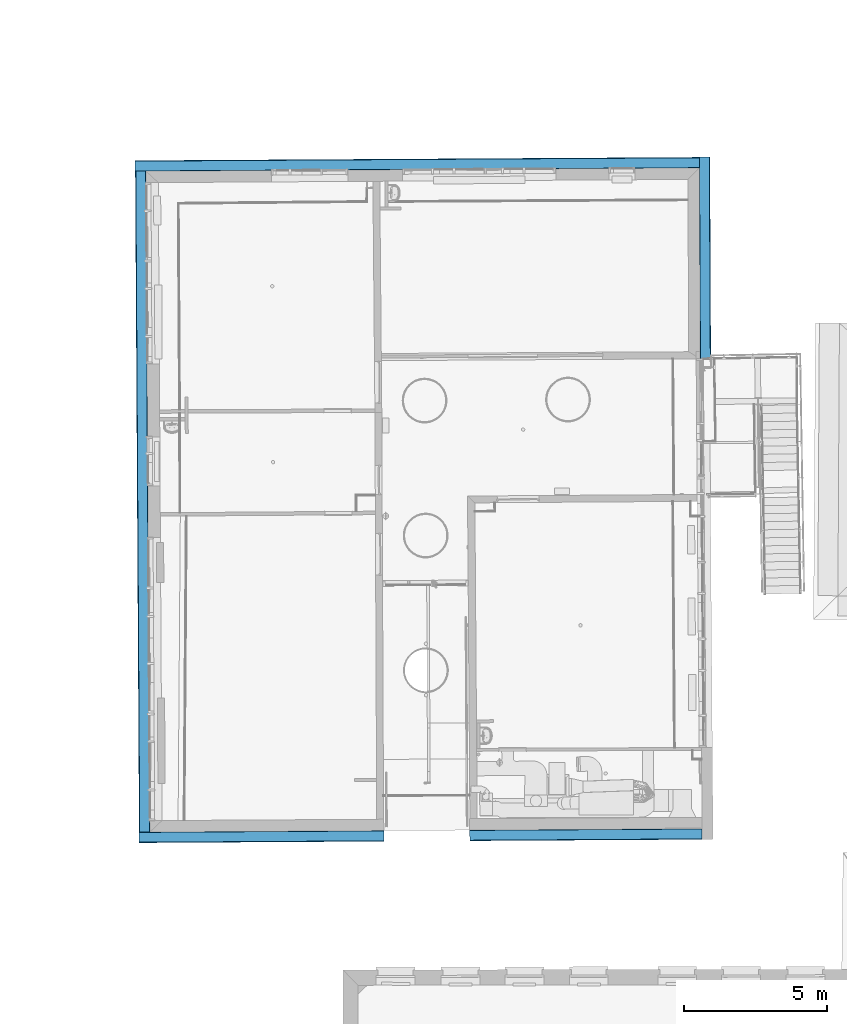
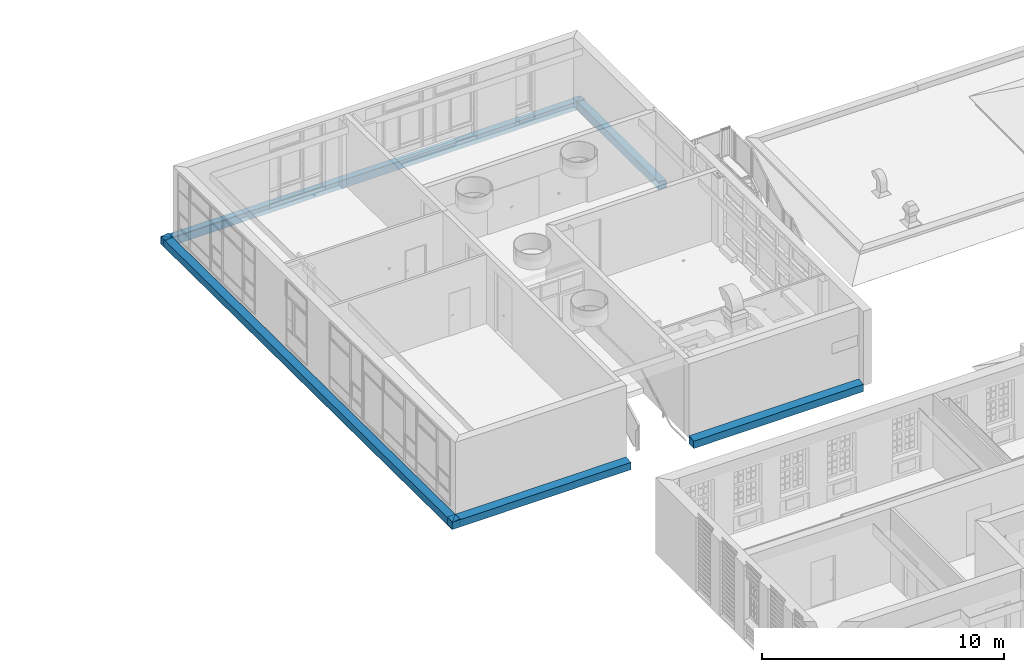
# One storey, part 52 of 158: 10 building element parts, 5 elements without a shape of their own.
"""IFC2X3 building model written with IfcOpenShell, lengths in metres."""

from ifc_helpers import new_model, entity, si_unit, converted_unit, derived_unit, money_unit, direction, frame, origin_with_axes, place, context, subcontext, project, spatial, polyline, outline, extrude, material, type_object, element, aggregate, save


model = new_model("IFC2X3")

# Units and contexts
model_context = context("Model", 3, precision=1e-05, world=origin_with_axes(), true_north=direction((0.0, 1.0)))
body_context = subcontext(model_context, "Body", "Model", "MODEL_VIEW")
ifc_project = project(units=[si_unit("LENGTHUNIT", "METRE"), si_unit("AREAUNIT", "SQUARE_METRE"), si_unit("VOLUMEUNIT", "CUBIC_METRE"), converted_unit("PLANEANGLEUNIT", "DEGREE", entity("IfcPlaneAngleMeasure", 0.0174532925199), si_unit("PLANEANGLEUNIT", "RADIAN"), dimensions=[0, 0, 0, 0, 0, 0, 0]), money_unit("EUR"), converted_unit("TIMEUNIT", "Year", entity("IfcTimeMeasure", 31556926.0), si_unit("TIMEUNIT", "SECOND"), dimensions=[0, 0, 1, 0, 0, 0, 0]), si_unit("MASSUNIT", "GRAM", prefix="KILO"), si_unit("THERMODYNAMICTEMPERATUREUNIT", "DEGREE_CELSIUS"), si_unit("LUMINOUSINTENSITYUNIT", "LUMEN"), si_unit("ENERGYUNIT", "JOULE", prefix="MEGA"), derived_unit("THERMALCONDUCTANCEUNIT", [(si_unit("POWERUNIT", "WATT"), 1), (si_unit("LENGTHUNIT", "METRE"), -1), (si_unit("THERMODYNAMICTEMPERATUREUNIT", "KELVIN"), -1)]), derived_unit("SPECIFICHEATCAPACITYUNIT", [(si_unit("ENERGYUNIT", "JOULE"), 1), (si_unit("MASSUNIT", "GRAM", prefix="KILO"), -1), (si_unit("THERMODYNAMICTEMPERATUREUNIT", "KELVIN"), -1)]), derived_unit("MASSDENSITYUNIT", [(si_unit("MASSUNIT", "GRAM", prefix="KILO"), 1), (si_unit("VOLUMEUNIT", "CUBIC_METRE"), -1)])], contexts=[model_context])

# Site, building, storey
site_placement = place(None, origin_with_axes())
site = spatial("IfcSite", under=ifc_project, at=site_placement, Name="Gelände", CompositionType="ELEMENT")
building_placement = place(site_placement, origin_with_axes())
building = spatial("IfcBuilding", under=site, at=building_placement, Name="Gebäude", CompositionType="ELEMENT")
storey_placement = place(building_placement, origin_with_axes())
storey = spatial("IfcBuildingStorey", under=building, at=storey_placement, Name="ERDGESCHOSS", CompositionType="ELEMENT", Elevation=0.0)

# Beam, building element parts
beam_type = type_object("IfcBeamType", Name="sims 374 x 425", PredefinedType="LINTEL")
beam_1_placement = place(storey_placement, frame((-15.2624628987, 54.3998649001, 1.13520466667), z_axis=(0.0, 0.0, 1.0), x_axis=(-0.00590756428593, 0.99998255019, 0.0)))
beam_1 = element("IfcBeam", 1, at=beam_1_placement, inside=storey, type_object=beam_type, Name="Unterzug-083", ObjectType="LINTEL")
ifc_material_1 = material(Name="33_Dach, Stehfalz")
building_element_part_1_placement = place(beam_1_placement, origin_with_axes())
building_element_part_1 = element("IfcBuildingElementPart", 2, at=building_element_part_1_placement, material=ifc_material_1, Name="33_Dach, Stehfalz", context=body_context, shape_type="SweptSolid", body=[
    extrude(outline(polyline([(-0.365694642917, 0.0339233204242), (-0.0211704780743, -0.0168783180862), (-0.0221454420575, -0.363606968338), (0.0, -0.369517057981), (0.0, 0.0), (-0.374024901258, 0.0551516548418), (-0.365694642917, 0.0339233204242)])), frame((0.0, 20.0640206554, 0.0), z_axis=(0.0, -1.0, 0.0), x_axis=(1.0, 0.0, 0.0)), (0.0, 0.0, 1.0), 20.0640206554),
])
ifc_material_2 = material(Name="05_ALLGEMEIN - TRAGENDE BAUTEILE")
building_element_part_2_placement = place(beam_1_placement, origin_with_axes())
building_element_part_2 = element("IfcBuildingElementPart", 3, at=building_element_part_2_placement, material=ifc_material_2, Name="05_ALLGEMEIN - TRAGENDE BAUTEILE", context=body_context, shape_type="SweptSolid", body=[
    extrude(outline(polyline([(-0.0211704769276, -0.0168783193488), (-0.365694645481, 0.0339233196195), (-0.365694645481, -0.363544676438), (-0.0221454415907, -0.36360696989), (-0.0211704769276, -0.0168783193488)])), frame((0.0, 20.0640206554, 0.0), z_axis=(0.0, -1.0, 0.0), x_axis=(1.0, 0.0, 0.0)), (0.0, 0.0, 1.0), 20.0640206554),
])
aggregate(beam_1, [building_element_part_1, building_element_part_2])

beam_2_placement = place(storey_placement, frame((-35.1864548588, 30.4649902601, 1.13520466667), z_axis=(0.0, 0.0, 1.0), x_axis=(0.00598536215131, -0.99998208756, 0.0)))
beam_2 = element("IfcBeam", 4, at=beam_2_placement, inside=storey, type_object=beam_type, Name="Unterzug-083", ObjectType="LINTEL")
building_element_part_3_placement = place(beam_2_placement, origin_with_axes())
building_element_part_3 = element("IfcBuildingElementPart", 5, at=building_element_part_3_placement, material=ifc_material_1, Name="33_Dach, Stehfalz", context=body_context, shape_type="SweptSolid", body=[
    extrude(outline(polyline([(-0.365694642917, 0.0339233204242), (-0.0211704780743, -0.0168783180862), (-0.0221454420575, -0.363606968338), (0.0, -0.369517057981), (0.0, 0.0), (-0.374024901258, 0.0551516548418), (-0.365694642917, 0.0339233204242)])), frame((0.0, 8.54164874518, 0.0), z_axis=(0.0, -1.0, 0.0), x_axis=(1.0, 0.0, 0.0)), (0.0, 0.0, 1.0), 8.54164874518),
])
building_element_part_4_placement = place(beam_2_placement, origin_with_axes())
building_element_part_4 = element("IfcBuildingElementPart", 6, at=building_element_part_4_placement, material=ifc_material_2, Name="05_ALLGEMEIN - TRAGENDE BAUTEILE", context=body_context, shape_type="SweptSolid", body=[
    extrude(outline(polyline([(-0.0211704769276, -0.0168783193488), (-0.365694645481, 0.0339233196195), (-0.365694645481, -0.363544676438), (-0.0221454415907, -0.36360696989), (-0.0211704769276, -0.0168783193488)])), frame((0.0, 8.54164874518, 0.0), z_axis=(0.0, -1.0, 0.0), x_axis=(1.0, 0.0, 0.0)), (0.0, 0.0, 1.0), 8.54164874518),
])
aggregate(beam_2, [building_element_part_3, building_element_part_4])

beam_3_placement = place(storey_placement, frame((-23.6460793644, 30.5340648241, 1.13520466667), z_axis=(0.0, 0.0, 1.0), x_axis=(0.00598536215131, -0.99998208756, 0.0)))
beam_3 = element("IfcBeam", 7, at=beam_3_placement, inside=storey, type_object=beam_type, Name="Unterzug-083", ObjectType="LINTEL")
building_element_part_5_placement = place(beam_3_placement, origin_with_axes())
building_element_part_5 = element("IfcBuildingElementPart", 8, at=building_element_part_5_placement, material=ifc_material_1, Name="33_Dach, Stehfalz", context=body_context, shape_type="SweptSolid", body=[
    extrude(outline(polyline([(-0.365694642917, 0.0339233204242), (-0.0211704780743, -0.0168783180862), (-0.0221454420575, -0.363606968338), (0.0, -0.369517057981), (0.0, 0.0), (-0.374024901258, 0.0551516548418), (-0.365694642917, 0.0339233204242)])), frame((0.0, 8.11291899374, 0.0), z_axis=(0.0, -1.0, 0.0), x_axis=(1.0, 0.0, 0.0)), (0.0, 0.0, 1.0), 8.11291899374),
])
building_element_part_6_placement = place(beam_3_placement, origin_with_axes())
building_element_part_6 = element("IfcBuildingElementPart", 9, at=building_element_part_6_placement, material=ifc_material_2, Name="05_ALLGEMEIN - TRAGENDE BAUTEILE", context=body_context, shape_type="SweptSolid", body=[
    extrude(outline(polyline([(-0.0211704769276, -0.0168783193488), (-0.365694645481, 0.0339233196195), (-0.365694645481, -0.363544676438), (-0.0221454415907, -0.36360696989), (-0.0211704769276, -0.0168783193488)])), frame((0.0, 8.11291899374, 0.0), z_axis=(0.0, -1.0, 0.0), x_axis=(1.0, 0.0, 0.0)), (0.0, 0.0, 1.0), 8.11291899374),
])
aggregate(beam_3, [building_element_part_5, building_element_part_6])

beam_4_placement = place(storey_placement, frame((-35.3261334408, 54.2813354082, 1.13520466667), z_axis=(0.0, 0.0, 1.0), x_axis=(-0.999982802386, -0.00586471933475, 0.0)))
beam_4 = element("IfcBeam", 10, at=beam_4_placement, inside=storey, type_object=beam_type, Name="Unterzug-083", ObjectType="LINTEL")
building_element_part_7_placement = place(beam_4_placement, origin_with_axes())
building_element_part_7 = element("IfcBuildingElementPart", 11, at=building_element_part_7_placement, material=ifc_material_1, Name="33_Dach, Stehfalz", context=body_context, shape_type="SweptSolid", body=[
    extrude(outline(polyline([(-0.365694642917, 0.0339233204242), (-0.0211704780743, -0.0168783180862), (-0.0221454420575, -0.363606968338), (0.0, -0.369517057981), (0.0, 0.0), (-0.374024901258, 0.0551516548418), (-0.365694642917, 0.0339233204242)])), frame((0.0, 23.8167547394, 0.0), z_axis=(0.0, -1.0, 0.0), x_axis=(1.0, 0.0, 0.0)), (0.0, 0.0, 1.0), 23.8167547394),
])
building_element_part_8_placement = place(beam_4_placement, origin_with_axes())
building_element_part_8 = element("IfcBuildingElementPart", 12, at=building_element_part_8_placement, material=ifc_material_2, Name="05_ALLGEMEIN - TRAGENDE BAUTEILE", context=body_context, shape_type="SweptSolid", body=[
    extrude(outline(polyline([(-0.0211704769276, -0.0168783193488), (-0.365694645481, 0.0339233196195), (-0.365694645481, -0.363544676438), (-0.0221454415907, -0.36360696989), (-0.0211704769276, -0.0168783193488)])), frame((0.0, 23.8167547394, 0.0), z_axis=(0.0, -1.0, 0.0), x_axis=(1.0, 0.0, 0.0)), (0.0, 0.0, 1.0), 23.8167547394),
])
aggregate(beam_4, [building_element_part_7, building_element_part_8])

beam_5_placement = place(storey_placement, frame((-15.2294120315, 47.3620659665, 1.13520466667), z_axis=(0.0, 0.0, 1.0), x_axis=(0.999988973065, 0.00469614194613, 0.0)))
beam_5 = element("IfcBeam", 13, at=beam_5_placement, inside=storey, type_object=beam_type, Name="Unterzug-083", ObjectType="LINTEL")
building_element_part_9_placement = place(beam_5_placement, origin_with_axes())
building_element_part_9 = element("IfcBuildingElementPart", 14, at=building_element_part_9_placement, material=ifc_material_1, Name="33_Dach, Stehfalz", context=body_context, shape_type="SweptSolid", body=[
    extrude(outline(polyline([(-0.365694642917, 0.0339233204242), (-0.0211704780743, -0.0168783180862), (-0.0221454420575, -0.363606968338), (0.0, -0.369517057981), (0.0, 0.0), (-0.374024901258, 0.0551516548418), (-0.365694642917, 0.0339233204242)])), frame((0.0, 7.03787653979, 0.0), z_axis=(0.0, -1.0, 0.0), x_axis=(1.0, 0.0, 0.0)), (0.0, 0.0, 1.0), 7.03787653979),
])
building_element_part_10_placement = place(beam_5_placement, origin_with_axes())
building_element_part_10 = element("IfcBuildingElementPart", 15, at=building_element_part_10_placement, material=ifc_material_2, Name="05_ALLGEMEIN - TRAGENDE BAUTEILE", context=body_context, shape_type="SweptSolid", body=[
    extrude(outline(polyline([(-0.0211704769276, -0.0168783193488), (-0.365694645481, 0.0339233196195), (-0.365694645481, -0.363544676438), (-0.0221454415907, -0.36360696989), (-0.0211704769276, -0.0168783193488)])), frame((0.0, 7.03787653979, 0.0), z_axis=(0.0, -1.0, 0.0), x_axis=(1.0, 0.0, 0.0)), (0.0, 0.0, 1.0), 7.03787653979),
])
aggregate(beam_5, [building_element_part_9, building_element_part_10])

save(model, "model.ifc")
